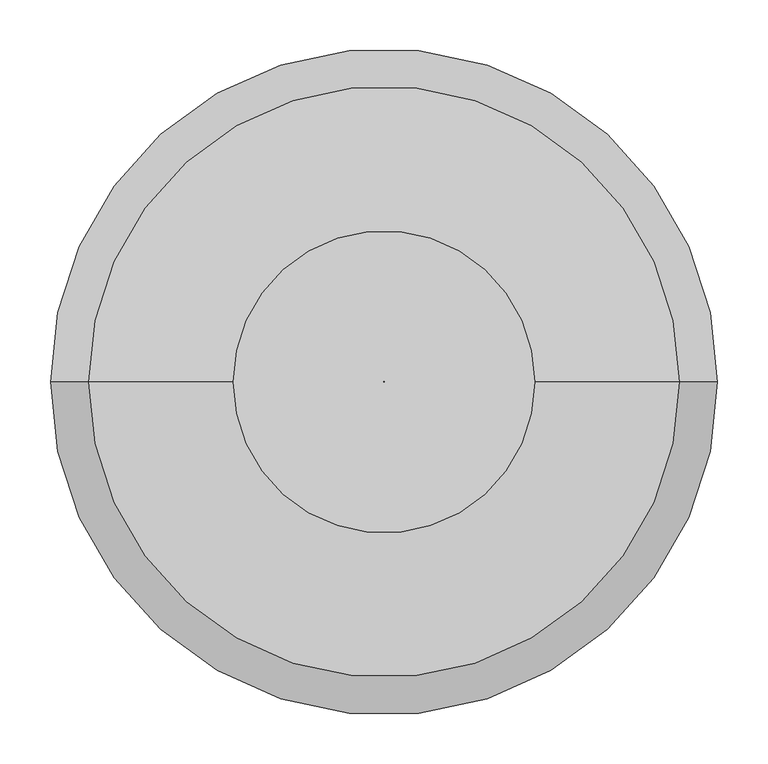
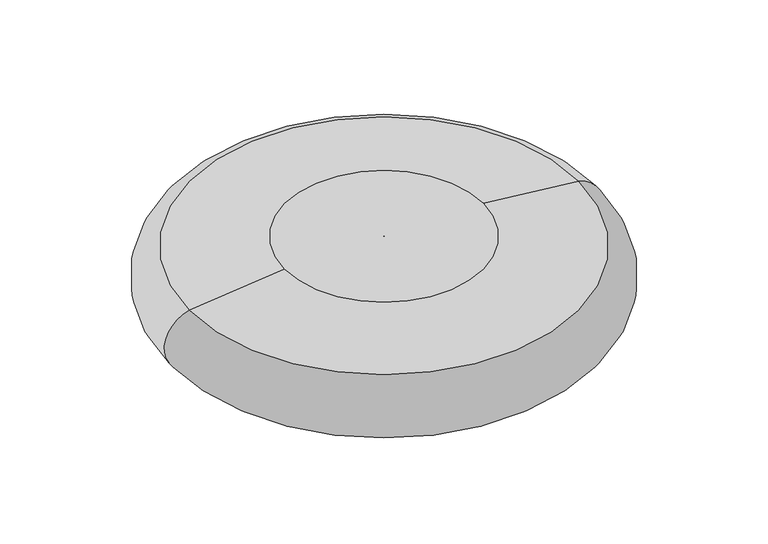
"""IFC4 building model written with IfcOpenShell, lengths in millimetres: proxy geometry, COJIN10 : COJIN."""

from ifc_helpers import new_model, si_unit, point, frame, origin, place, context, project, spatial, polyline, circle_curve, ellipse_curve, trimmed, source, transform, mapped, element, save
from ifc_brep_helpers import plane_surface, revolved_surface, advanced_brep


def generic_models_2a9a9363(model_context):
    return source(origin(), model_context, "Body", "AdvancedBrep", [
        advanced_brep(
        [(13516.6226529, 7667.417933, -901.6165305), (12931.3880015, 7667.417933, -901.6165305), (12944.0305089, 7667.417933, -999.9918032), (13503.9801455, 7667.417933, -999.9918032), (13373.5326802, 7667.417933, -886.7804137), (13074.4779743, 7667.417933, -886.7804137), (13224.3225399, 7667.417933, -999.9918032), (13223.6881146, 7667.417933, -999.9918032), (13223.6881146, 7667.417933, -886.7804137), (13224.3225399, 7667.417933, -886.7804137)],
        [
            (0, 1, circle_curve(frame((13224.0053272, 7667.417933, -901.6165305), z_axis=(0.0, 0.0, -1.0), x_axis=(-1.0, 0.0, 0.0)), 292.6173257)),
            (1, 2, circle_curve(frame((12944.0305089, 7667.417933, -949.9918032), z_axis=(0.0, -1.0, 0.0), x_axis=(1.0, 0.0, 0.0)), 50.0)),
            (2, 3, circle_curve(frame((13224.0053272, 7667.417933, -999.9918032), z_axis=(0.0, 0.0, 1.0), x_axis=(-1.0, 0.0, 0.0)), 279.9748183)),
            (3, 0, circle_curve(frame((13503.9801455, 7667.417933, -949.9918032), z_axis=(0.0, -1.0, 0.0), x_axis=(-1.0, 0.0, 0.0)), 50.0)),
            (4, 5, circle_curve(frame((13224.0053272, 7667.417933, -886.7804137), z_axis=(0.0, 0.0, -1.0), x_axis=(-1.0, 0.0, 0.0)), 149.527353)),
            (5, 1),
            (0, 4),
            (6, 7, circle_curve(frame((13224.0053272, 7667.417933, -999.9918032), z_axis=(0.0, 0.0, -1.0), x_axis=(-1.0, 0.0, 0.0)), 0.3172127)),
            (7, 8),
            (8, 9, circle_curve(frame((13224.0053272, 7667.417933, -886.7804137), z_axis=(0.0, 0.0, 1.0), x_axis=(-1.0, 0.0, 0.0)), 0.3172127)),
            (9, 6),
            (1, 0, circle_curve(frame((13224.0053272, 7667.417933, -901.6165305), z_axis=(0.0, 0.0, -1.0), x_axis=(1.0, 0.0, 0.0)), 292.6173257)),
            (3, 2, circle_curve(frame((13224.0053272, 7667.417933, -999.9918032), z_axis=(0.0, 0.0, 1.0), x_axis=(1.0, 0.0, 0.0)), 279.9748183)),
            (5, 4, circle_curve(frame((13224.0053272, 7667.417933, -886.7804137), z_axis=(0.0, 0.0, -1.0), x_axis=(1.0, 0.0, 0.0)), 149.527353)),
            (8, 9, circle_curve(frame((13224.0053272, 7667.417933, -886.7804137), z_axis=(0.0, 0.0, -1.0), x_axis=(1.0, 0.0, 0.0)), 0.3172127)),
            (7, 6, circle_curve(frame((13224.0053272, 7667.417933, -999.9918032), z_axis=(0.0, 0.0, -1.0), x_axis=(1.0, 0.0, 0.0)), 0.3172127)),
        ],
        [
            revolved_surface(trimmed(ellipse_curve(frame((12944.0305089, 7667.417933, -949.9918032), z_axis=(0.0, 1.0, 0.0), x_axis=(1.0, 0.0, 0.0)), 50.0, 50.0), [point((12944.0305089, 7667.417933, -999.9918032))], [point((12931.3880015, 7667.417933, -901.6165305))], True, "CARTESIAN"), (13224.0053272, 7667.417933, 0.0), (0.0, 0.0, 1.0)),
            revolved_surface(polyline([(12931.3880015, 7667.417933, -901.6165305), (13074.4779743, 7667.417933, -886.7804137)]), (13224.0053272, 7667.417933, 0.0), (0.0, 0.0, 1.0)),
            revolved_surface(polyline([(13223.6881145, 7667.417933, -886.7804137), (13223.6881145, 7667.417933, -999.9918032)]), (13224.0053272, 7667.417933, 0.0), (0.0, 0.0, 1.0)),
            revolved_surface(trimmed(ellipse_curve(frame((13503.9801455, 7667.417933, -949.9918032), z_axis=(0.0, -1.0, 0.0), x_axis=(-1.0, 0.0, 0.0)), 50.0, 50.0), [point((13503.9801455, 7667.417933, -999.9918032))], [point((13516.6226529, 7667.417933, -901.6165305))], True, "CARTESIAN"), (13224.0053272, 7667.417933, 0.0), (0.0, 0.0, 1.0)),
            revolved_surface(polyline([(13516.6226529, 7667.417933, -901.6165305), (13373.5326802, 7667.417933, -886.7804137)]), (13224.0053272, 7667.417933, 0.0), (0.0, 0.0, 1.0)),
            plane_surface(frame((13224.0053272, 7667.417933, -886.7804137), z_axis=(0.0, 0.0, 1.0), x_axis=(1.0, 0.0, 0.0))),
            revolved_surface(polyline([(13224.3225399, 7667.417933, -886.7804137), (13224.3225399, 7667.417933, -999.9918032)]), (13224.0053272, 7667.417933, 0.0), (0.0, 0.0, 1.0)),
            plane_surface(frame((13224.0053272, 7667.417933, -999.9918032), z_axis=(0.0, 0.0, -1.0), x_axis=(1.0, 0.0, 0.0))),
        ],
        [
            (0, [[1, 2, 3, 4]]),
            (1, [[5, 6, -1, 7]]),
            (2, [[8, 9, 10, 11]]),
            (3, [[12, -4, 13, -2]]),
            (4, [[14, -7, -12, -6]]),
            (5, [[-14, -5], [15, -10]]),
            (6, [[16, -11, -15, -9]]),
            (7, [[-13, -3], [-16, -8]]),
        ],
    ),
    ])


if __name__ == "__main__":
    model = new_model("IFC4")
    model_context = context("Model", 3, world=origin())
    ifc_project = project(units=[si_unit("LENGTHUNIT", "METRE", prefix="MILLI")], contexts=[model_context])
    site = spatial("IfcSite", under=ifc_project)
    building = spatial("IfcBuilding", under=site)
    placement = place(None, origin())
    generic_models_shape = generic_models_2a9a9363(model_context)
    element("IfcBuildingElementProxy", 1, Name="COJIN10 : COJIN", ObjectType="COJIN10 : COJIN", at=placement, inside=building, context=model_context, shape_type="MappedRepresentation", body=[
        mapped(generic_models_shape, transform((0.0, 0.0, 0.0), x_axis=(1.0, 0.0, 0.0), y_axis=(0.0, 1.0, 0.0), z_axis=(0.0, 0.0, 1.0))),
    ])
    save(model, "model.ifc")
